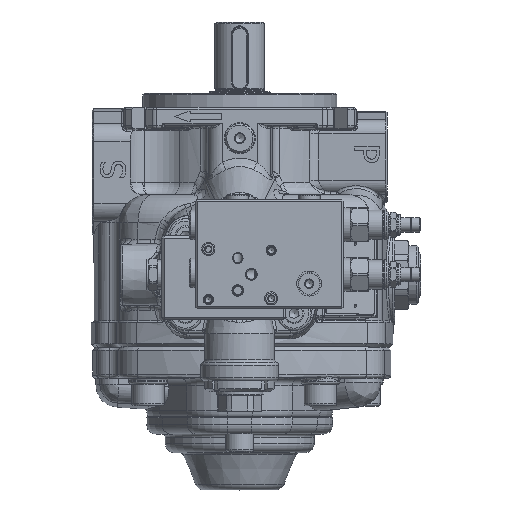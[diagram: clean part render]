
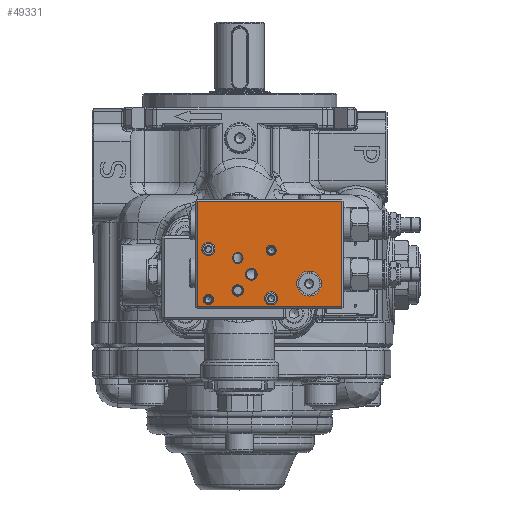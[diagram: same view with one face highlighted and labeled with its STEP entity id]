
A CAD part, top view. The second image highlights one B-rep face of the part: STEP entity #49331.
In plain terms, the highlighted planar face has unit normal (0, 0, 1).
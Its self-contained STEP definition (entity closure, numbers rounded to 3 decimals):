
#706=FACE_BOUND('',#9312,.T.);
#707=FACE_BOUND('',#9313,.T.);
#708=FACE_BOUND('',#9314,.T.);
#709=FACE_BOUND('',#9315,.T.);
#710=FACE_BOUND('',#9316,.T.);
#711=FACE_BOUND('',#9317,.T.);
#712=FACE_BOUND('',#9318,.T.);
#713=FACE_BOUND('',#9319,.T.);
#2199=PLANE('',#54030);
#3607=B_SPLINE_CURVE_WITH_KNOTS('',3,(#101102,#101103,#101104,#101105,#101106,
#101107,#101108,#101109,#101110,#101111,#101112,#101113,#101114,#101115,
#101116,#101117,#101118),.UNSPECIFIED.,.T.,.F.,(4,1,1,1,1,1,1,1,1,1,1,1,
1,1,4),(-2.154,-2.077,-2.,-1.923,
-1.846,-1.538,-1.231,-1.128,
-0.923,-0.615,-0.308,-0.231,
-0.154,-0.077,0.),.UNSPECIFIED.);
#6359=FACE_OUTER_BOUND('',#9311,.T.);
#9311=EDGE_LOOP('',(#42171,#42172,#42173,#42174));
#9312=EDGE_LOOP('',(#42175));
#9313=EDGE_LOOP('',(#42176));
#9314=EDGE_LOOP('',(#42177));
#9315=EDGE_LOOP('',(#42178));
#9316=EDGE_LOOP('',(#42179));
#9317=EDGE_LOOP('',(#42180,#42181));
#9318=EDGE_LOOP('',(#42182));
#9319=EDGE_LOOP('',(#42183));
#9692=CIRCLE('',#49787,4.25);
#11771=CIRCLE('',#53564,4.25);
#11805=CIRCLE('',#53624,8.);
#11806=CIRCLE('',#53625,8.);
#11895=CIRCLE('',#53992,3.25);
#11900=CIRCLE('',#53999,3.75);
#11901=CIRCLE('',#54001,3.25);
#11904=CIRCLE('',#54008,3.75);
#14908=LINE('',#100980,#17731);
#14913=LINE('',#100988,#17736);
#14918=LINE('',#100996,#17741);
#14921=LINE('',#101000,#17744);
#17731=VECTOR('',#65976,10.);
#17736=VECTOR('',#65985,10.);
#17741=VECTOR('',#65994,10.);
#17744=VECTOR('',#65999,10.);
#18172=VERTEX_POINT('',#68327);
#21430=VERTEX_POINT('',#98845);
#21485=VERTEX_POINT('',#99252);
#21486=VERTEX_POINT('',#99253);
#21957=VERTEX_POINT('',#100976);
#21958=VERTEX_POINT('',#100978);
#21959=VERTEX_POINT('',#100986);
#21960=VERTEX_POINT('',#100993);
#21962=VERTEX_POINT('',#101097);
#21963=VERTEX_POINT('',#101120);
#21968=VERTEX_POINT('',#101134);
#21969=VERTEX_POINT('',#101138);
#21974=VERTEX_POINT('',#101152);
#22722=EDGE_CURVE('',#18172,#18172,#9692,.T.);
#27967=EDGE_CURVE('',#21430,#21430,#11771,.T.);
#28042=EDGE_CURVE('',#21485,#21486,#11805,.T.);
#28043=EDGE_CURVE('',#21486,#21485,#11806,.T.);
#28752=EDGE_CURVE('',#21958,#21957,#14908,.T.);
#28757=EDGE_CURVE('',#21959,#21958,#14913,.T.);
#28762=EDGE_CURVE('',#21957,#21960,#14918,.T.);
#28765=EDGE_CURVE('',#21960,#21959,#14921,.T.);
#28769=EDGE_CURVE('',#21962,#21962,#3607,.T.);
#28770=EDGE_CURVE('',#21963,#21963,#11895,.T.);
#28777=EDGE_CURVE('',#21968,#21968,#11900,.T.);
#28779=EDGE_CURVE('',#21969,#21969,#11901,.T.);
#28786=EDGE_CURVE('',#21974,#21974,#11904,.T.);
#42171=ORIENTED_EDGE('',*,*,#28765,.F.);
#42172=ORIENTED_EDGE('',*,*,#28762,.F.);
#42173=ORIENTED_EDGE('',*,*,#28752,.F.);
#42174=ORIENTED_EDGE('',*,*,#28757,.F.);
#42175=ORIENTED_EDGE('',*,*,#27967,.F.);
#42176=ORIENTED_EDGE('',*,*,#22722,.F.);
#42177=ORIENTED_EDGE('',*,*,#28786,.F.);
#42178=ORIENTED_EDGE('',*,*,#28777,.F.);
#42179=ORIENTED_EDGE('',*,*,#28769,.F.);
#42180=ORIENTED_EDGE('',*,*,#28042,.T.);
#42181=ORIENTED_EDGE('',*,*,#28043,.T.);
#42182=ORIENTED_EDGE('',*,*,#28770,.F.);
#42183=ORIENTED_EDGE('',*,*,#28779,.F.);
#49331=ADVANCED_FACE('',(#6359,#706,#707,#708,#709,#710,#711,#712,#713),
#2199,.T.);
#49787=AXIS2_PLACEMENT_3D('',#68329,#55135,#55136);
#53564=AXIS2_PLACEMENT_3D('',#98847,#64530,#64531);
#53624=AXIS2_PLACEMENT_3D('',#99254,#64674,#64675);
#53625=AXIS2_PLACEMENT_3D('',#99255,#64676,#64677);
#53992=AXIS2_PLACEMENT_3D('',#101121,#66021,#66022);
#53999=AXIS2_PLACEMENT_3D('',#101135,#66037,#66038);
#54001=AXIS2_PLACEMENT_3D('',#101139,#66042,#66043);
#54008=AXIS2_PLACEMENT_3D('',#101153,#66058,#66059);
#54030=AXIS2_PLACEMENT_3D('',#101193,#66113,#66114);
#55135=DIRECTION('center_axis',(0.,0.,
1.));
#55136=DIRECTION('ref_axis',(1.,0.,0.));
#64530=DIRECTION('center_axis',(0.,0.,
1.));
#64531=DIRECTION('ref_axis',(1.,0.,0.));
#64674=DIRECTION('center_axis',(0.,0.,
-1.));
#64675=DIRECTION('ref_axis',(-1.,0.,0.));
#64676=DIRECTION('center_axis',(0.,0.,
-1.));
#64677=DIRECTION('ref_axis',(-1.,0.,0.));
#65976=DIRECTION('',(0.,1.,0.));
#65985=DIRECTION('',(-1.,0.,0.));
#65994=DIRECTION('',(1.,0.,0.));
#65999=DIRECTION('',(0.,-1.,0.));
#66021=DIRECTION('center_axis',(0.,0.,
1.));
#66022=DIRECTION('ref_axis',(1.,0.,0.));
#66037=DIRECTION('center_axis',(0.,0.,
1.));
#66038=DIRECTION('ref_axis',(1.,0.,0.));
#66042=DIRECTION('center_axis',(0.,0.,
1.));
#66043=DIRECTION('ref_axis',(1.,0.,0.));
#66058=DIRECTION('center_axis',(0.,0.,
1.));
#66059=DIRECTION('ref_axis',(1.,0.,0.));
#66113=DIRECTION('center_axis',(0.,0.,
1.));
#66114=DIRECTION('ref_axis',(-1.,0.,0.));
#68327=CARTESIAN_POINT('',(-28.042,-19.972,236.023));
#68329=CARTESIAN_POINT('Origin',(-23.792,-19.972,236.023));
#98845=CARTESIAN_POINT('',(12.458,-51.722,236.023));
#98847=CARTESIAN_POINT('Origin',(16.708,-51.722,236.023));
#99252=CARTESIAN_POINT('',(33.208,-42.222,236.023));
#99253=CARTESIAN_POINT('',(49.208,-42.222,236.023));
#99254=CARTESIAN_POINT('Origin',(41.208,-42.222,236.023));
#99255=CARTESIAN_POINT('Origin',(41.208,-42.222,236.023));
#100976=CARTESIAN_POINT('',(-30.792,10.778,236.023));
#100978=CARTESIAN_POINT('',(-30.792,-57.222,236.023));
#100980=CARTESIAN_POINT('',(-30.792,-5.722,236.023));
#100986=CARTESIAN_POINT('',(62.208,-57.222,236.023));
#100988=CARTESIAN_POINT('',(-8.042,-57.222,236.023));
#100993=CARTESIAN_POINT('',(62.208,10.778,236.023));
#100996=CARTESIAN_POINT('',(39.458,10.778,236.023));
#101000=CARTESIAN_POINT('',(62.208,-40.722,236.023));
#101097=CARTESIAN_POINT('',(-4.792,-22.216,236.023));
#101102=CARTESIAN_POINT('Ctrl Pts',(-4.792,-22.216,
236.023));
#101103=CARTESIAN_POINT('Ctrl Pts',(-4.963,-22.216,
236.023));
#101104=CARTESIAN_POINT('Ctrl Pts',(-5.334,-22.234,
236.023));
#101105=CARTESIAN_POINT('Ctrl Pts',(-6.168,-22.466,
236.023));
#101106=CARTESIAN_POINT('Ctrl Pts',(-6.932,-22.959,
236.023));
#101107=CARTESIAN_POINT('Ctrl Pts',(-8.03,-24.117,
236.023));
#101108=CARTESIAN_POINT('Ctrl Pts',(-8.547,-26.583,
236.023));
#101109=CARTESIAN_POINT('Ctrl Pts',(-6.979,-28.705,
236.023));
#101110=CARTESIAN_POINT('Ctrl Pts',(-4.985,-29.346,
236.023));
#101111=CARTESIAN_POINT('Ctrl Pts',(-2.844,-29.012,
236.023));
#101112=CARTESIAN_POINT('Ctrl Pts',(-1.027,-26.575,
236.023));
#101113=CARTESIAN_POINT('Ctrl Pts',(-1.554,-24.12,
236.023));
#101114=CARTESIAN_POINT('Ctrl Pts',(-2.651,-22.96,
236.023));
#101115=CARTESIAN_POINT('Ctrl Pts',(-3.415,-22.467,
236.023));
#101116=CARTESIAN_POINT('Ctrl Pts',(-4.249,-22.235,
236.023));
#101117=CARTESIAN_POINT('Ctrl Pts',(-4.621,-22.216,
236.023));
#101118=CARTESIAN_POINT('Ctrl Pts',(-4.792,-22.216,
236.023));
#101120=CARTESIAN_POINT('',(-27.042,-52.472,236.023));
#101121=CARTESIAN_POINT('Origin',(-23.792,-52.472,236.023));
#101134=CARTESIAN_POINT('',(0.258,-36.222,236.023));
#101135=CARTESIAN_POINT('Origin',(4.008,-36.222,236.023));
#101138=CARTESIAN_POINT('',(13.458,-20.722,236.023));
#101139=CARTESIAN_POINT('Origin',(16.708,-20.722,236.023));
#101152=CARTESIAN_POINT('',(-8.542,-46.622,236.023));
#101153=CARTESIAN_POINT('Origin',(-4.792,-46.622,236.023));
#101193=CARTESIAN_POINT('Origin',(15.708,-23.222,236.023));
